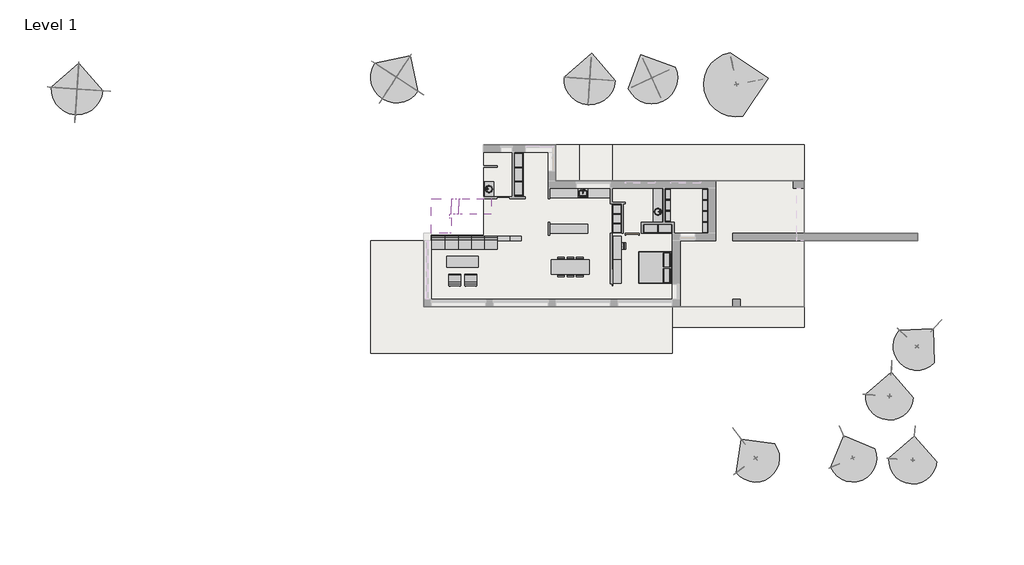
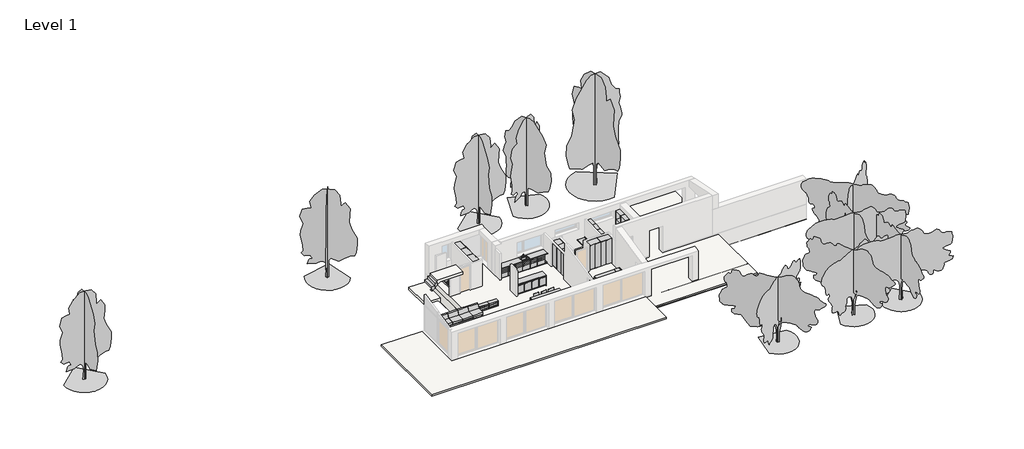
# One storey, part 2 of 2: 52 furniture elements, 10 geographic elements, 6 slabs, 3 flow terminals, 1 proxy, 1 stair flight.
"""IFC4 building model written with IfcOpenShell, lengths in millimetres."""

from ifc_helpers import new_model, si_unit, frame, origin, place, context, project, spatial, polyline, outline, extrude, faceted_brep, triangles, transform, mapped, element, save
from components import sink_kitchen_single_600_x_535mm_f0c6929d, sink_vanity_round_482_x_482mm_621b7b9b, sink_vanity_round_482_x_482mm_d6680c68, furniture_56f83323, furniture_c7f23c1d, furniture_641ccf10, furniture_1500_x_500mm_231fc5f9, furniture_2000_x_700mm_sofa_1e09125b, furniture_2400_x_900mm_03e2ad21, furniture_700_x_300_x_2200mm_207dd1db, furniture_700_x_300_x_2200mm_c5de9306, furniture_750_x_300_x_450mm_957a72fb, base_cabinet_4_drawers_600mm_0668e636, base_cabinet_4_drawers_600mm_bfcd0b6d, bed_box_2000_x_2100mm_5f007bae, couch_straight_module_couch_straight_module_fcc397ea, counter_top_counter_top_cbd42a63, counter_top_w_sink_counter_top_w_sink_5c8073ae, plinth_164mm_2a3f33c6, plinth_164mm_81055ff0, tall_cabinet_double_door_900mm_d8c8d432, tall_cabinet_single_door_600mm_1bc0e967, tall_cabinet_single_door_600mm_d6f7602f, vanity_counter_top_w_round_sink_hole_600mm_depth_e5f633f1, vanity_counter_top_w_round_sink_hole_600mm_depth_4de5aa83, rpc_tree_deciduous_comman_apple_6_0_meters_a7a636f8, rpc_tree_deciduous_red_ash_7_6_meters_16c8020d, rpc_tree_deciduous_red_ash_9_6_meters_2_bacbc33b

model = new_model("IFC4")

# Units and contexts
model_context = context("Model", 3, world=origin())
ifc_project = project(units=[si_unit("LENGTHUNIT", "METRE", prefix="MILLI")], contexts=[model_context])

# Site, building, storey
site = spatial("IfcSite", under=ifc_project)
building = spatial("IfcBuilding", under=site)
storey = spatial("IfcBuildingStorey", under=building, Name="Level 1", Elevation=0.0)

# Proxy
placement = place(None, origin())
element("IfcBuildingElementProxy", 1, Name="Building Element Proxy", at=placement, inside=storey, context=model_context, shape_type="Tessellation", body=[
    triangles([(7800.0000595, 9960.0001923, -1300.1595932), (7800.0000595, 9960.0001923, -581.8375231), (8428.9581802, 9960.0001923, -1300.1595932), (8428.9581802, 9960.0001923, -500.0000038), (12360.0002106, 9960.0001923, -1300.1595932), (12360.0002106, 9960.0001923, -210.0000089), (12360.0002106, 7679.999826, -1300.1595932), (12360.0002106, 7679.999826, -229.7587047), (12986.7293976, 7679.999826, -1300.1595932), (12986.7293976, 7679.999826, -199.1943094), (15938.3887665, 7679.999826, -1300.1595932), (15938.3887665, 7679.999826, -109.0047382), (18788.9891876, 7679.999826, -1300.1595932), (18788.9891876, 7679.999826, -110.9825699), (20187.7979919, 7679.999826, -1300.1595932), (20187.7979919, 7679.999826, -100.0000008), (22628.3373962, 7679.999826, -1300.1595932), (22628.3373962, 7679.999826, -100.0000008), (22988.0666016, 7679.999826, -1300.1595932), (22988.0666016, 7679.999826, -100.0000008), (24740.727063, 7679.999826, -1300.1595932), (24740.727063, 7679.999826, -100.0000008), (28197.1858521, 7679.999826, -1300.1595932), (28197.1858521, 7679.999826, -100.0000008), (28199.9996338, 7679.999826, -1300.1595932), (28199.9996338, 7679.999826, -100.0000008), (28199.9996338, 7678.500499, -1300.1595932), (28199.9996338, 7678.500499, -100.0000008), (28199.9996338, 4319.9999748, -1300.1595932), (28199.9996338, 4319.9999748, -100.0000008), (29690.7714294, 4319.9999748, -1300.1595932), (29690.7714294, 4319.9999748, -100.0000008), (30279.9424438, 4319.9999748, -1300.1595932), (30279.9424438, 4319.9999748, -100.0000008), (30908.9993958, 4319.9999748, -1300.1595932), (30908.9993958, 4319.9999748, -31.0460633), (31416.6009705, 4319.9999748, -1300.1595932), (31416.6009705, 4319.9999748, 0.0), (35399.9996887, 4319.9999748, -1300.1595932), (35399.9996887, 4319.9999748, 122.2298394), (35399.9996887, 3839.999913, -1300.1595932), (35399.9996887, 3839.999913, 121.0508688), (31455.0242065, 3839.999913, -1300.1595932), (31455.0242065, 3839.999913, 0.0), (31153.3635498, 3839.999913, -1300.1595932), (31153.3635498, 3839.999913, -18.4501842), (30409.3973328, 3839.999913, -1300.1595932), (30409.3973328, 3839.999913, -100.0000008), (29712.602655, 3839.999913, -1300.1595932), (29712.602655, 3839.999913, -100.0000008), (28199.9996338, 3839.999913, -1300.1595932), (28199.9996338, 3839.999913, -100.0000008), (28199.9996338, 2757.5497055, -1300.1595932), (28199.9996338, 2757.5497055, -100.0000008), (28199.9996338, -360.00001, -1300.1595932), (28199.9996338, -360.00001, -100.0000008), (23853.7207397, -360.00001, -1300.1595932), (23853.7207397, -360.00001, -100.0000008), (22511.993335, -360.00001, -1300.1595932), (22511.993335, -360.00001, -100.0000008), (21752.8164185, -360.00001, -1300.1595932), (21752.8164185, -360.00001, -100.0000008), (16504.800705, -360.00001, -1300.1595932), (16504.800705, -360.00001, -141.2041627), (15862.1806274, -360.00001, -1300.1595932), (15862.1806274, -360.00001, -140.758296), (15196.7770569, -360.00001, -1300.1595932), (15196.7770569, -360.00001, -161.0900401), (13880.4667053, -360.00001, -1300.1595932), (13880.4667053, -360.00001, -225.2839233), (13373.8755341, -360.00001, -1300.1595932), (13373.8755341, -360.00001, -233.3955103), (12470.4004486, -360.00001, -1300.1595932), (12470.4004486, -360.00001, -249.2727207), (11393.3638641, -360.00001, -1300.1595932), (11393.3638641, -360.00001, -270.7964614), (9179.1106476, -360.00001, -1300.1595932), (9179.1106476, -360.00001, -319.6154838), (3959.9998558, -360.00001, -1300.1595932), (3959.9998558, -360.00001, -445.0650939), (3959.9998558, 1473.4966873, -1300.1595932), (3959.9998558, 1473.4966873, -452.5169646), (3959.9998558, 3551.736985, -1300.1595932), (3959.9998558, 3551.736985, -472.7297934), (3959.9998558, 3839.999913, -1300.1595932), (3959.9998558, 3839.999913, -476.6637102)], [[1, 4, 2], [1, 3, 4], [3, 6, 4], [3, 5, 6], [5, 8, 6], [5, 7, 8], [7, 10, 8], [7, 9, 10], [9, 12, 10], [9, 11, 12], [11, 14, 12], [11, 13, 14], [13, 16, 14], [13, 15, 16], [15, 18, 16], [15, 17, 18], [17, 20, 18], [17, 19, 20], [19, 22, 20], [19, 21, 22], [21, 24, 22], [21, 23, 24], [23, 26, 24], [23, 25, 26], [25, 28, 26], [25, 27, 28], [27, 30, 28], [27, 29, 30], [29, 32, 30], [29, 31, 32], [31, 34, 32], [31, 33, 34], [33, 36, 34], [33, 35, 36], [35, 38, 36], [35, 37, 38], [37, 40, 38], [37, 39, 40], [39, 42, 40], [39, 41, 42], [41, 44, 42], [41, 43, 44], [43, 46, 44], [43, 45, 46], [45, 48, 46], [45, 47, 48], [47, 50, 48], [47, 49, 50], [49, 52, 50], [49, 51, 52], [51, 54, 52], [51, 53, 54], [53, 56, 54], [53, 55, 56], [55, 58, 56], [55, 57, 58], [57, 60, 58], [57, 59, 60], [59, 62, 60], [59, 61, 62], [61, 64, 62], [61, 63, 64], [63, 66, 64], [63, 65, 66], [65, 68, 66], [65, 67, 68], [67, 70, 68], [67, 69, 70], [69, 72, 70], [69, 71, 72], [71, 74, 72], [71, 73, 74], [73, 76, 74], [73, 75, 76], [75, 78, 76], [75, 77, 78], [77, 80, 78], [77, 79, 80], [79, 82, 80], [79, 81, 82], [81, 84, 82], [81, 83, 84], [83, 86, 84], [83, 85, 86]], closed=False),
    triangles([(3959.9998558, 3839.999913, -1300.1595932), (3959.9998558, 3839.999913, -476.6637102), (3959.9998558, 3551.736985, -1300.1595932), (3959.9998558, 3551.736985, -472.7297934), (3959.9998558, 1473.4966873, -1300.1595932), (3959.9998558, 1473.4966873, -452.5169646), (3959.9998558, -360.00001, -1300.1595932), (3959.9998558, -360.00001, -445.0650939), (9179.1106476, -360.00001, -1300.1595932), (9179.1106476, -360.00001, -319.6154838), (11393.3638641, -360.00001, -1300.1595932), (11393.3638641, -360.00001, -270.7964614), (12470.4004486, -360.00001, -1300.1595932), (12470.4004486, -360.00001, -249.2727207), (13373.8755341, -360.00001, -1300.1595932), (13373.8755341, -360.00001, -233.3955103), (13880.4667053, -360.00001, -1300.1595932), (13880.4667053, -360.00001, -225.2839233), (15196.7770569, -360.00001, -1300.1595932), (15196.7770569, -360.00001, -161.0900401), (15862.1806274, -360.00001, -1300.1595932), (15862.1806274, -360.00001, -140.758296), (16504.800705, -360.00001, -1300.1595932), (16504.800705, -360.00001, -141.2041627), (21752.8164185, -360.00001, -1300.1595932), (21752.8164185, -360.00001, -100.0000008), (22511.993335, -360.00001, -1300.1595932), (22511.993335, -360.00001, -100.0000008), (23853.7207397, -360.00001, -1300.1595932), (23853.7207397, -360.00001, -100.0000008), (28199.9996338, -360.00001, -1300.1595932), (28199.9996338, -360.00001, -100.0000008), (28199.9996338, 2757.5497055, -1300.1595932), (28199.9996338, 2757.5497055, -100.0000008), (28199.9996338, 3839.999913, -1300.1595932), (28199.9996338, 3839.999913, -100.0000008), (29712.602655, 3839.999913, -1300.1595932), (29712.602655, 3839.999913, -100.0000008), (30409.3973328, 3839.999913, -1300.1595932), (30409.3973328, 3839.999913, -100.0000008), (31153.3635498, 3839.999913, -1300.1595932), (31153.3635498, 3839.999913, -18.4501842), (31455.0242065, 3839.999913, -1300.1595932), (31455.0242065, 3839.999913, 0.0), (35399.9996887, 3839.999913, -1300.1595932), (35399.9996887, 3839.999913, 121.0508688), (35399.9996887, 4319.9999748, -1300.1595932), (35399.9996887, 4319.9999748, 122.2298394), (31416.6009705, 4319.9999748, -1300.1595932), (31416.6009705, 4319.9999748, 0.0), (30908.9993958, 4319.9999748, -1300.1595932), (30908.9993958, 4319.9999748, -31.0460633), (30279.9424438, 4319.9999748, -1300.1595932), (30279.9424438, 4319.9999748, -100.0000008), (29690.7714294, 4319.9999748, -1300.1595932), (29690.7714294, 4319.9999748, -100.0000008), (28199.9996338, 4319.9999748, -1300.1595932), (28199.9996338, 4319.9999748, -100.0000008), (28199.9996338, 7678.500499, -1300.1595932), (28199.9996338, 7678.500499, -100.0000008), (28199.9996338, 7679.999826, -1300.1595932), (28199.9996338, 7679.999826, -100.0000008), (28197.1858521, 7679.999826, -1300.1595932), (28197.1858521, 7679.999826, -100.0000008), (24740.727063, 7679.999826, -1300.1595932), (24740.727063, 7679.999826, -100.0000008), (22988.0666016, 7679.999826, -1300.1595932), (22988.0666016, 7679.999826, -100.0000008), (22628.3373962, 7679.999826, -1300.1595932), (22628.3373962, 7679.999826, -100.0000008), (20187.7979919, 7679.999826, -1300.1595932), (20187.7979919, 7679.999826, -100.0000008), (18788.9891876, 7679.999826, -1300.1595932), (18788.9891876, 7679.999826, -110.9825699), (15938.3887665, 7679.999826, -1300.1595932), (15938.3887665, 7679.999826, -109.0047382), (12986.7293976, 7679.999826, -1300.1595932), (12986.7293976, 7679.999826, -199.1943094), (12360.0002106, 7679.999826, -1300.1595932), (12360.0002106, 7679.999826, -229.7587047), (12360.0002106, 9960.0001923, -1300.1595932), (12360.0002106, 9960.0001923, -210.0000089)], [[1, 4, 2], [1, 3, 4], [3, 6, 4], [3, 5, 6], [5, 8, 6], [5, 7, 8], [7, 10, 8], [7, 9, 10], [9, 12, 10], [9, 11, 12], [11, 14, 12], [11, 13, 14], [13, 16, 14], [13, 15, 16], [15, 18, 16], [15, 17, 18], [17, 20, 18], [17, 19, 20], [19, 22, 20], [19, 21, 22], [21, 24, 22], [21, 23, 24], [23, 26, 24], [23, 25, 26], [25, 28, 26], [25, 27, 28], [27, 30, 28], [27, 29, 30], [29, 32, 30], [29, 31, 32], [31, 34, 32], [31, 33, 34], [33, 36, 34], [33, 35, 36], [35, 38, 36], [35, 37, 38], [37, 40, 38], [37, 39, 40], [39, 42, 40], [39, 41, 42], [41, 44, 42], [41, 43, 44], [43, 46, 44], [43, 45, 46], [45, 48, 46], [45, 47, 48], [47, 50, 48], [47, 49, 50], [49, 52, 50], [49, 51, 52], [51, 54, 52], [51, 53, 54], [53, 56, 54], [53, 55, 56], [55, 58, 56], [55, 57, 58], [57, 60, 58], [57, 59, 60], [59, 62, 60], [59, 61, 62], [61, 64, 62], [61, 63, 64], [63, 66, 64], [63, 65, 66], [65, 68, 66], [65, 67, 68], [67, 70, 68], [67, 69, 70], [69, 72, 70], [69, 71, 72], [71, 74, 72], [71, 73, 74], [73, 76, 74], [73, 75, 76], [75, 78, 76], [75, 77, 78], [77, 80, 78], [77, 79, 80], [79, 82, 80], [79, 81, 82]], closed=False),
    triangles([(12360.0002106, 9960.0001923, -1300.1595932), (12360.0002106, 9960.0001923, -210.0000089), (8428.9581802, 9960.0001923, -1300.1595932), (8428.9581802, 9960.0001923, -500.0000038), (7800.0000595, 9960.0001923, -1300.1595932), (7800.0000595, 9960.0001923, -581.8375231)], [[1, 4, 2], [1, 3, 4], [3, 6, 4], [3, 5, 6]], closed=False),
    triangles([(12360.0002106, 9960.0001923, -1300.1595932), (7800.0000595, 9960.0001923, -1300.1595932), (7800.0000595, 4200.000032, -1300.1595932), (4439.9999176, 4200.000032, -1300.1595932), (4439.9999176, 3839.999913, -1300.1595932), (3959.9998558, 3839.999913, -1300.1595932), (3959.9998558, -360.00001, -1300.1595932), (28199.9996338, -360.00001, -1300.1595932), (28199.9996338, 3839.999913, -1300.1595932), (35399.9996887, 3839.999913, -1300.1595932), (35399.9996887, 4319.9999748, -1300.1595932), (28199.9996338, 4319.9999748, -1300.1595932), (28199.9996338, 7679.999826, -1300.1595932), (12360.0002106, 7679.999826, -1300.1595932)], [[7, 5, 6], [5, 7, 3], [2, 14, 1], [14, 2, 3], [4, 5, 3], [7, 8, 3], [8, 9, 14], [9, 10, 11], [14, 12, 13], [12, 14, 9], [12, 9, 11], [8, 14, 3]], closed=False),
])

# Flow terminals
sink_kitchen_single_600_x_535mm_shape = sink_kitchen_single_600_x_535mm_f0c6929d(model_context)
element("IfcFlowTerminal", 2, ObjectType="Sink Kitchen-Single : 600 x 535mm", at=placement, inside=storey, context=model_context, shape_type="MappedRepresentation", body=[
    mapped(sink_kitchen_single_600_x_535mm_shape, transform((14084.3107594, 6884.4545989, 0.0), x_axis=(1.0, 0.0, 0.0), y_axis=(0.0, 1.0, 0.0), z_axis=(0.0, 0.0, 1.0))),
])
sink_vanity_round_482_x_482mm_shape = sink_vanity_round_482_x_482mm_621b7b9b(model_context)
element("IfcFlowTerminal", 3, ObjectType="Sink Vanity - Round : 482 x 482mm", at=placement, inside=storey, context=model_context, shape_type="MappedRepresentation", body=[
    mapped(sink_vanity_round_482_x_482mm_shape, transform((8198.5909789, 7043.3482594, 0.0), x_axis=(0.0, 1.0, 0.0), y_axis=(-1.0, 0.0, 0.0), z_axis=(0.0, 0.0, 1.0))),
])
sink_vanity_round_482_x_482mm_2_shape = sink_vanity_round_482_x_482mm_d6680c68(model_context)
element("IfcFlowTerminal", 4, ObjectType="Sink Vanity - Round : 482 x 482mm", at=placement, inside=storey, context=model_context, shape_type="MappedRepresentation", body=[
    mapped(sink_vanity_round_482_x_482mm_2_shape, transform((18782.3590211, 5603.3482594, 0.0), x_axis=(0.0, 1.0, 0.0), y_axis=(-1.0, 0.0, 0.0), z_axis=(0.0, 0.0, 1.0))),
])

# Furniture
furniture_shape = furniture_56f83323(model_context)
element("IfcFurniture", 5, ObjectType="Chair - Allround : Dining Chair Trendy", at=placement, inside=storey, context=model_context, shape_type="MappedRepresentation", body=[
    mapped(furniture_shape, transform((13300.0, 2500.0, 0.0), x_axis=(1.0, 0.0, 0.0), y_axis=(0.0, 1.0, 0.0), z_axis=(0.0, 0.0, 1.0))),
])
element("IfcFurniture", 6, ObjectType="Chair - Allround : Dining Chair Trendy", at=placement, inside=storey, context=model_context, shape_type="MappedRepresentation", body=[
    mapped(furniture_shape, transform((12700.0, 2500.0, 0.0), x_axis=(1.0, 0.0, 0.0), y_axis=(0.0, 1.0, 0.0), z_axis=(0.0, 0.0, 1.0))),
])
element("IfcFurniture", 7, ObjectType="Chair - Allround : Dining Chair Trendy", at=placement, inside=storey, context=model_context, shape_type="MappedRepresentation", body=[
    mapped(furniture_shape, transform((13900.0, 1860.0, 0.0), x_axis=(-1.0, 0.0, 0.0), y_axis=(0.0, -1.0, 0.0), z_axis=(0.0, 0.0, 1.0))),
])
element("IfcFurniture", 8, ObjectType="Chair - Allround : Dining Chair Trendy", at=placement, inside=storey, context=model_context, shape_type="MappedRepresentation", body=[
    mapped(furniture_shape, transform((16520.0, 3510.0, 0.0), x_axis=(0.0, -1.0, 0.0), y_axis=(1.0, 0.0, 0.0), z_axis=(0.0, 0.0, 1.0))),
])
furniture_2_shape = furniture_c7f23c1d(model_context)
element("IfcFurniture", 9, ObjectType="Armchair - Barcelona : Armchair Barcelona", at=placement, inside=storey, context=model_context, shape_type="MappedRepresentation", body=[
    mapped(furniture_2_shape, transform((6959.0, 930.0, 0.0), x_axis=(-1.0000000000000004, 0.0, 0.0), y_axis=(0.0, -1.0000000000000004, 0.0), z_axis=(0.0, 0.0, 1.0))),
])
element("IfcFurniture", 10, ObjectType="Armchair - Barcelona : Armchair Barcelona", at=placement, inside=storey, context=model_context, shape_type="MappedRepresentation", body=[
    mapped(furniture_2_shape, transform((5947.0, 930.0, 0.0), x_axis=(-1.0, 0.0, 0.0), y_axis=(0.0, -1.0, 0.0), z_axis=(0.0, 0.0, 1.0))),
])
furniture_3_shape = furniture_641ccf10(model_context)
element("IfcFurniture", 11, ObjectType="Chair - Allround : Dining Chair Trendy", at=placement, inside=storey, context=model_context, shape_type="MappedRepresentation", body=[
    mapped(furniture_3_shape, transform((13900.0, 2500.0, 0.0), x_axis=(-1.0, 0.0, 0.0), y_axis=(0.0, -1.0, 0.0), z_axis=(0.0, 0.0, 1.0))),
])
element("IfcFurniture", 12, ObjectType="Chair - Allround : Dining Chair Trendy", at=placement, inside=storey, context=model_context, shape_type="MappedRepresentation", body=[
    mapped(furniture_3_shape, transform((13300.0, 1860.0, 0.0), x_axis=(1.0, 0.0, 0.0), y_axis=(0.0, 1.0, 0.0), z_axis=(0.0, 0.0, 1.0))),
])
element("IfcFurniture", 13, ObjectType="Chair - Allround : Dining Chair Trendy", at=placement, inside=storey, context=model_context, shape_type="MappedRepresentation", body=[
    mapped(furniture_3_shape, transform((12700.0, 1860.0, 0.0), x_axis=(1.0, 0.0, 0.0), y_axis=(0.0, 1.0, 0.0), z_axis=(0.0, 0.0, 1.0))),
])
furniture_1500_x_500mm_shape = furniture_1500_x_500mm_231fc5f9(model_context)
element("IfcFurniture", 14, ObjectType="Table - Allround : 1500 x 500mm", at=placement, inside=storey, context=model_context, shape_type="MappedRepresentation", body=[
    mapped(furniture_1500_x_500mm_shape, transform((16275.0, 3400.0, 0.0), x_axis=(0.0, 1.0, 0.0), y_axis=(-1.0, 0.0, 0.0), z_axis=(0.0, 0.0, 1.0))),
])
element("IfcFurniture", 15, ObjectType="Table - Allround : 1500 x 500mm", at=placement, inside=storey, context=model_context, shape_type="MappedRepresentation", body=[
    mapped(furniture_1500_x_500mm_shape, transform((16275.0, 1900.0, 0.0), x_axis=(0.0, 1.0, 0.0), y_axis=(-1.0, 0.0, 0.0), z_axis=(0.0, 0.0, 1.0))),
])
furniture_2000_x_700mm_sofa_shape = furniture_2000_x_700mm_sofa_1e09125b(model_context)
element("IfcFurniture", 16, ObjectType="Table - Allround : 2000 x 700mm Sofa", at=placement, inside=storey, context=model_context, shape_type="MappedRepresentation", body=[
    mapped(furniture_2000_x_700mm_sofa_shape, transform((6440.0, 2520.0, 0.0), x_axis=(1.0, 0.0, 0.0), y_axis=(0.0, 1.0, 0.0), z_axis=(0.0, 0.0, 1.0))),
])
furniture_2400_x_900mm_shape = furniture_2400_x_900mm_03e2ad21(model_context)
element("IfcFurniture", 17, ObjectType="Table - Allround : 2400 x 900mm", at=placement, inside=storey, context=model_context, shape_type="MappedRepresentation", body=[
    mapped(furniture_2400_x_900mm_shape, transform((13300.0, 2180.0, 0.0), x_axis=(1.0, 0.0, 0.0), y_axis=(0.0, 1.0, 0.0), z_axis=(0.0, 0.0, 1.0))),
])
furniture_700_x_300_x_2200mm_shape = furniture_700_x_300_x_2200mm_207dd1db(model_context)
element("IfcFurniture", 18, ObjectType="Shelving (Floor) - Allround : 700 x 300 x 2200mm", at=placement, inside=storey, context=model_context, shape_type="MappedRepresentation", body=[
    mapped(furniture_700_x_300_x_2200mm_shape, transform((19824.8, 5420.0, 0.0), x_axis=(0.0, -1.0000000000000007, 0.0), y_axis=(1.0000000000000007, 0.0, 0.0), z_axis=(0.0, 0.0, 1.0))),
])
element("IfcFurniture", 19, ObjectType="Shelving (Floor) - Allround : 700 x 300 x 2200mm", at=placement, inside=storey, context=model_context, shape_type="MappedRepresentation", body=[
    mapped(furniture_700_x_300_x_2200mm_shape, transform((19824.8, 6120.0, 0.0), x_axis=(0.0, -1.0000000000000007, 0.0), y_axis=(1.0000000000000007, 0.0, 0.0), z_axis=(0.0, 0.0, 1.0))),
])
element("IfcFurniture", 20, ObjectType="Shelving (Floor) - Allround : 700 x 300 x 2200mm", at=placement, inside=storey, context=model_context, shape_type="MappedRepresentation", body=[
    mapped(furniture_700_x_300_x_2200mm_shape, transform((19824.8, 6820.0, 0.0), x_axis=(0.0, -1.0000000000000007, 0.0), y_axis=(1.0000000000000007, 0.0, 0.0), z_axis=(0.0, 0.0, 1.0))),
])
furniture_700_x_300_x_2200mm_2_shape = furniture_700_x_300_x_2200mm_c5de9306(model_context)
element("IfcFurniture", 21, ObjectType="Shelving (Floor) - Allround : 700 x 300 x 2200mm", at=placement, inside=storey, context=model_context, shape_type="MappedRepresentation", body=[
    mapped(furniture_700_x_300_x_2200mm_2_shape, transform((21575.2, 5400.0, 0.0), x_axis=(0.0, -1.0000000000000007, 0.0), y_axis=(1.0000000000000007, 0.0, 0.0), z_axis=(0.0, 0.0, 1.0))),
])
element("IfcFurniture", 22, ObjectType="Shelving (Floor) - Allround : 700 x 300 x 2200mm", at=placement, inside=storey, context=model_context, shape_type="MappedRepresentation", body=[
    mapped(furniture_700_x_300_x_2200mm_2_shape, transform((21575.2, 6100.0, 0.0), x_axis=(0.0, -1.0000000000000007, 0.0), y_axis=(1.0000000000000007, 0.0, 0.0), z_axis=(0.0, 0.0, 1.0))),
])
element("IfcFurniture", 23, ObjectType="Shelving (Floor) - Allround : 700 x 300 x 2200mm", at=placement, inside=storey, context=model_context, shape_type="MappedRepresentation", body=[
    mapped(furniture_700_x_300_x_2200mm_2_shape, transform((21575.2, 6800.0, 0.0), x_axis=(0.0, -1.0000000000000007, 0.0), y_axis=(1.0000000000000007, 0.0, 0.0), z_axis=(0.0, 0.0, 1.0))),
])
element("IfcFurniture", 24, ObjectType="Shelving (Floor) - Allround : 700 x 300 x 2200mm", at=placement, inside=storey, context=model_context, shape_type="MappedRepresentation", body=[
    mapped(furniture_700_x_300_x_2200mm_2_shape, transform((21575.2, 4700.0, 0.0), x_axis=(0.0, -1.0000000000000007, 0.0), y_axis=(1.0000000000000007, 0.0, 0.0), z_axis=(0.0, 0.0, 1.0))),
])
furniture_750_x_300_x_450mm_shape = furniture_750_x_300_x_450mm_957a72fb(model_context)
element("IfcFurniture", 25, ObjectType="Shelving (Floor) - Allround : 750 x 300 x 450mm", at=placement, inside=storey, context=model_context, shape_type="MappedRepresentation", body=[
    mapped(furniture_750_x_300_x_450mm_shape, transform((9065.0, 4304.8, 0.0), x_axis=(1.0000000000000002, 0.0, 0.0), y_axis=(0.0, 1.0000000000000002, 0.0), z_axis=(0.0, 0.0, 1.0))),
])
element("IfcFurniture", 26, ObjectType="Shelving (Floor) - Allround : 750 x 300 x 450mm", at=placement, inside=storey, context=model_context, shape_type="MappedRepresentation", body=[
    mapped(furniture_750_x_300_x_450mm_shape, transform((9815.0, 4304.8, 0.0), x_axis=(1.0000000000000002, 0.0, 0.0), y_axis=(0.0, 1.0000000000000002, 0.0), z_axis=(0.0, 0.0, 1.0))),
])
base_cabinet_4_drawers_600mm_shape = base_cabinet_4_drawers_600mm_0668e636(model_context)
element("IfcFurniture", 27, ObjectType="Base Cabinet - 4 Drawers : 600mm", at=placement, inside=storey, context=model_context, shape_type="MappedRepresentation", body=[
    mapped(base_cabinet_4_drawers_600mm_shape, transform((13455.2996736, 7200.9817781, 0.0), x_axis=(1.0, 0.0, 0.0), y_axis=(0.0, 1.0, 0.0), z_axis=(0.0, 0.0, 1.0))),
])
element("IfcFurniture", 28, ObjectType="Base Cabinet - 4 Drawers : 600mm", at=placement, inside=storey, context=model_context, shape_type="MappedRepresentation", body=[
    mapped(base_cabinet_4_drawers_600mm_shape, transform((14655.2996736, 7200.0, 0.0), x_axis=(1.0, 0.0, 0.0), y_axis=(0.0, 1.0, 0.0), z_axis=(0.0, 0.0, 1.0))),
])
element("IfcFurniture", 29, ObjectType="Base Cabinet - 4 Drawers : 600mm", at=placement, inside=storey, context=model_context, shape_type="MappedRepresentation", body=[
    mapped(base_cabinet_4_drawers_600mm_shape, transform((15255.2996736, 7200.0, 0.0), x_axis=(1.0, 0.0, 0.0), y_axis=(0.0, 1.0, 0.0), z_axis=(0.0, 0.0, 1.0))),
])
element("IfcFurniture", 30, ObjectType="Base Cabinet - 4 Drawers : 600mm", at=placement, inside=storey, context=model_context, shape_type="MappedRepresentation", body=[
    mapped(base_cabinet_4_drawers_600mm_shape, transform((12344.7003264, 4320.0, 0.0), x_axis=(-1.0000000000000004, 0.0, 0.0), y_axis=(0.0, -1.0000000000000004, 0.0), z_axis=(0.0, 0.0, 1.0))),
])
element("IfcFurniture", 31, ObjectType="Base Cabinet - 4 Drawers : 600mm", at=placement, inside=storey, context=model_context, shape_type="MappedRepresentation", body=[
    mapped(base_cabinet_4_drawers_600mm_shape, transform((12944.7003264, 4320.0, 0.0), x_axis=(-1.0, 0.0, 0.0), y_axis=(0.0, -1.0, 0.0), z_axis=(0.0, 0.0, 1.0))),
])
element("IfcFurniture", 32, ObjectType="Base Cabinet - 4 Drawers : 600mm", at=placement, inside=storey, context=model_context, shape_type="MappedRepresentation", body=[
    mapped(base_cabinet_4_drawers_600mm_shape, transform((13544.7003264, 4320.0, 0.0), x_axis=(-1.0, 0.0, 0.0), y_axis=(0.0, -1.0, 0.0), z_axis=(0.0, 0.0, 1.0))),
])
element("IfcFurniture", 33, ObjectType="Base Cabinet - 4 Drawers : 600mm", at=placement, inside=storey, context=model_context, shape_type="MappedRepresentation", body=[
    mapped(base_cabinet_4_drawers_600mm_shape, transform((14144.7003264, 4320.0, 0.0), x_axis=(-1.0, 0.0, 0.0), y_axis=(0.0, -1.0, 0.0), z_axis=(0.0, 0.0, 1.0))),
])
element("IfcFurniture", 34, ObjectType="Base Cabinet - 4 Drawers : 600mm", at=placement, inside=storey, context=model_context, shape_type="MappedRepresentation", body=[
    mapped(base_cabinet_4_drawers_600mm_shape, transform((12855.2996736, 7200.9817781, 0.0), x_axis=(1.0, 0.0, 0.0), y_axis=(0.0, 1.0, 0.0), z_axis=(0.0, 0.0, 1.0))),
])
element("IfcFurniture", 35, ObjectType="Base Cabinet - 4 Drawers : 600mm", at=placement, inside=storey, context=model_context, shape_type="MappedRepresentation", body=[
    mapped(base_cabinet_4_drawers_600mm_shape, transform((12255.2996736, 7200.9817781, 0.0), x_axis=(1.0, 0.0, 0.0), y_axis=(0.0, 1.0, 0.0), z_axis=(0.0, 0.0, 1.0))),
])
base_cabinet_4_drawers_600mm_2_shape = base_cabinet_4_drawers_600mm_bfcd0b6d(model_context)
element("IfcFurniture", 36, ObjectType="Base Cabinet - 4 Drawers : 600mm", at=placement, inside=storey, context=model_context, shape_type="MappedRepresentation", body=[
    mapped(base_cabinet_4_drawers_600mm_2_shape, transform((14055.2996736, 7200.0, 0.0), x_axis=(1.0, 0.0, 0.0), y_axis=(0.0, 1.0, 0.0), z_axis=(0.0, 0.0, 1.0))),
])
bed_box_2000_x_2100mm_shape = bed_box_2000_x_2100mm_5f007bae(model_context)
element("IfcFurniture", 37, ObjectType="Bed - Box : 2000 x 2100mm", at=placement, inside=storey, context=model_context, shape_type="MappedRepresentation", body=[
    mapped(bed_box_2000_x_2100mm_shape, transform((18934.4295082, 2489.152459, 0.0), x_axis=(0.0, -1.0000000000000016, 0.0), y_axis=(1.0000000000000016, 0.0, 0.0), z_axis=(0.0, 0.0, 1.0))),
])
couch_straight_module_couch_straight_module_shape = couch_straight_module_couch_straight_module_fcc397ea(model_context)
element("IfcFurniture", 38, ObjectType="Couch - Straight Module : Couch straight module", at=placement, inside=storey, context=model_context, shape_type="MappedRepresentation", body=[
    mapped(couch_straight_module_couch_straight_module_shape, transform((4490.0, 3320.0, 0.0), x_axis=(1.0, 0.0, 0.0), y_axis=(0.0, 1.0, 0.0), z_axis=(0.0, 0.0, 1.0))),
])
element("IfcFurniture", 39, ObjectType="Couch - Straight Module : Couch straight module", at=placement, inside=storey, context=model_context, shape_type="MappedRepresentation", body=[
    mapped(couch_straight_module_couch_straight_module_shape, transform((5320.0, 3320.0, 0.0), x_axis=(1.0, 0.0, 0.0), y_axis=(0.0, 1.0, 0.0), z_axis=(0.0, 0.0, 1.0))),
])
element("IfcFurniture", 40, ObjectType="Couch - Straight Module : Couch straight module", at=placement, inside=storey, context=model_context, shape_type="MappedRepresentation", body=[
    mapped(couch_straight_module_couch_straight_module_shape, transform((6150.0, 3320.0, 0.0), x_axis=(1.0, 0.0, 0.0), y_axis=(0.0, 1.0, 0.0), z_axis=(0.0, 0.0, 1.0))),
])
element("IfcFurniture", 41, ObjectType="Couch - Straight Module : Couch straight module", at=placement, inside=storey, context=model_context, shape_type="MappedRepresentation", body=[
    mapped(couch_straight_module_couch_straight_module_shape, transform((6980.0, 3320.0, 0.0), x_axis=(1.0, 0.0, 0.0), y_axis=(0.0, 1.0, 0.0), z_axis=(0.0, 0.0, 1.0))),
])
element("IfcFurniture", 42, ObjectType="Couch - Straight Module : Couch straight module", at=placement, inside=storey, context=model_context, shape_type="MappedRepresentation", body=[
    mapped(couch_straight_module_couch_straight_module_shape, transform((7810.0, 3320.0, 0.0), x_axis=(1.0, 0.0, 0.0), y_axis=(0.0, 1.0, 0.0), z_axis=(0.0, 0.0, 1.0))),
])
counter_top_counter_top_shape = counter_top_counter_top_cbd42a63(model_context)
element("IfcFurniture", 43, ObjectType="Counter Top : Counter Top", at=placement, inside=storey, context=model_context, shape_type="MappedRepresentation", body=[
    mapped(counter_top_counter_top_shape, transform((13844.7003264, 4320.0, 0.0), x_axis=(-1.0000000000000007, 0.0, 0.0), y_axis=(0.0, -1.0000000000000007, 0.0), z_axis=(0.0, 0.0, 1.0))),
])
counter_top_w_sink_counter_top_w_sink_shape = counter_top_w_sink_counter_top_w_sink_5c8073ae(model_context)
element("IfcFurniture", 44, ObjectType="Counter Top w Sink : Counter Top w Sink", at=placement, inside=storey, context=model_context, shape_type="MappedRepresentation", body=[
    mapped(counter_top_w_sink_counter_top_w_sink_shape, transform((12555.2996736, 7200.0, 0.0), x_axis=(1.0, 0.0, 0.0), y_axis=(0.0, 1.0, 0.0), z_axis=(0.0, 0.0, 1.0))),
])
plinth_164mm_shape = plinth_164mm_2a3f33c6(model_context)
element("IfcFurniture", 45, ObjectType="Plinth : 164mm", at=placement, inside=storey, context=model_context, shape_type="MappedRepresentation", body=[
    mapped(plinth_164mm_shape, transform((13214.7003264, 4320.0, 0.0), x_axis=(-1.0, 0.0, 0.0), y_axis=(0.0, -1.0, 0.0), z_axis=(0.0, 0.0, 1.0))),
])
plinth_164mm_2_shape = plinth_164mm_81055ff0(model_context)
element("IfcFurniture", 46, ObjectType="Plinth : 164mm", at=placement, inside=storey, context=model_context, shape_type="MappedRepresentation", body=[
    mapped(plinth_164mm_2_shape, transform((13845.2996736, 7200.0, 0.0), x_axis=(1.0, 0.0, 0.0), y_axis=(0.0, 1.0, 0.0), z_axis=(0.0, 0.0, 1.0))),
])
tall_cabinet_double_door_900mm_shape = tall_cabinet_double_door_900mm_d8c8d432(model_context)
element("IfcFurniture", 47, ObjectType="Tall Cabinet - Double door : 900mm", at=placement, inside=storey, context=model_context, shape_type="MappedRepresentation", body=[
    mapped(tall_cabinet_double_door_900mm_shape, transform((9720.0, 7130.2996736, 0.0), x_axis=(0.0, 1.0000000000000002, 0.0), y_axis=(-1.0000000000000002, 0.0, 0.0), z_axis=(0.0, 0.0, 1.0))),
])
element("IfcFurniture", 48, ObjectType="Tall Cabinet - Double door : 900mm", at=placement, inside=storey, context=model_context, shape_type="MappedRepresentation", body=[
    mapped(tall_cabinet_double_door_900mm_shape, transform((9720.0, 8930.2996736, 0.0), x_axis=(0.0, 1.0000000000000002, 0.0), y_axis=(-1.0000000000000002, 0.0, 0.0), z_axis=(0.0, 0.0, 1.0))),
])
element("IfcFurniture", 49, ObjectType="Tall Cabinet - Double door : 900mm", at=placement, inside=storey, context=model_context, shape_type="MappedRepresentation", body=[
    mapped(tall_cabinet_double_door_900mm_shape, transform((19275.2996736, 4920.0, 0.0), x_axis=(1.0000000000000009, 0.0, 0.0), y_axis=(0.0, 1.0000000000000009, 0.0), z_axis=(0.0, 0.0, 1.0))),
])
element("IfcFurniture", 50, ObjectType="Tall Cabinet - Double door : 900mm", at=placement, inside=storey, context=model_context, shape_type="MappedRepresentation", body=[
    mapped(tall_cabinet_double_door_900mm_shape, transform((9720.0, 8030.2996736, 0.0), x_axis=(0.0, 1.0, 0.0), y_axis=(-1.0, 0.0, 0.0), z_axis=(0.0, 0.0, 1.0))),
])
element("IfcFurniture", 51, ObjectType="Tall Cabinet - Double door : 900mm", at=placement, inside=storey, context=model_context, shape_type="MappedRepresentation", body=[
    mapped(tall_cabinet_double_door_900mm_shape, transform((18375.2996736, 4920.0, 0.0), x_axis=(1.0000000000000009, 0.0, 0.0), y_axis=(0.0, 1.0000000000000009, 0.0), z_axis=(0.0, 0.0, 1.0))),
])
tall_cabinet_single_door_600mm_shape = tall_cabinet_single_door_600mm_1bc0e967(model_context)
element("IfcFurniture", 52, ObjectType="Tall Cabinet - Single door : 600mm", at=placement, inside=storey, context=model_context, shape_type="MappedRepresentation", body=[
    mapped(tall_cabinet_single_door_600mm_shape, transform((16560.0, 5904.7003264, 0.0), x_axis=(0.0, -1.0, 0.0), y_axis=(1.0, 0.0, 0.0), z_axis=(0.0, 0.0, 1.0))),
])
tall_cabinet_single_door_600mm_2_shape = tall_cabinet_single_door_600mm_d6f7602f(model_context)
element("IfcFurniture", 53, ObjectType="Tall Cabinet - Single door : 600mm", at=placement, inside=storey, context=model_context, shape_type="MappedRepresentation", body=[
    mapped(tall_cabinet_single_door_600mm_2_shape, transform((16560.0, 5215.2996736, 0.0), x_axis=(0.0, 1.0, 0.0), y_axis=(-1.0, 0.0, 0.0), z_axis=(0.0, 0.0, 1.0))),
])
element("IfcFurniture", 54, ObjectType="Tall Cabinet - Single door : 600mm", at=placement, inside=storey, context=model_context, shape_type="MappedRepresentation", body=[
    mapped(tall_cabinet_single_door_600mm_2_shape, transform((16560.0, 4615.2996736, 0.0), x_axis=(0.0, 1.0, 0.0), y_axis=(-1.0, 0.0, 0.0), z_axis=(0.0, 0.0, 1.0))),
])
vanity_counter_top_w_round_sink_hole_600mm_depth_shape = vanity_counter_top_w_round_sink_hole_600mm_depth_e5f633f1(model_context)
element("IfcFurniture", 55, ObjectType="Vanity Counter Top w Round Sink Hole : 600mm Depth", at=placement, inside=storey, context=model_context, shape_type="MappedRepresentation", body=[
    mapped(vanity_counter_top_w_round_sink_hole_600mm_depth_shape, transform((19200.0, 6367.4622951, 0.0), x_axis=(0.0, 1.0, 0.0), y_axis=(-1.0, 0.0, 0.0), z_axis=(0.0, 0.0, 1.0))),
])
vanity_counter_top_w_round_sink_hole_600mm_depth_2_shape = vanity_counter_top_w_round_sink_hole_600mm_depth_4de5aa83(model_context)
element("IfcFurniture", 56, ObjectType="Vanity Counter Top w Round Sink Hole : 600mm Depth", at=placement, inside=storey, context=model_context, shape_type="MappedRepresentation", body=[
    mapped(vanity_counter_top_w_round_sink_hole_600mm_depth_2_shape, transform((7800.0, 7987.4622951, 0.0), x_axis=(0.0, 1.0, 0.0), y_axis=(-1.0, 0.0, 0.0), z_axis=(0.0, 0.0, 1.0))),
])

# Geographic elements
rpc_tree_deciduous_comman_apple_6_0_meters_shape = rpc_tree_deciduous_comman_apple_6_0_meters_a7a636f8(model_context)
element("IfcGeographicElement", 57, ObjectType="RPC Tree - Deciduous : Comman Apple - 6.0 Meters", at=placement, inside=storey, context=model_context, shape_type="MappedRepresentation", body=[
    mapped(rpc_tree_deciduous_comman_apple_6_0_meters_shape, transform((35361.5764965, -2873.1431422, 199.8486254), x_axis=(0.7313537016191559, -0.6819983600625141, 0.0), y_axis=(0.6819983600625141, 0.7313537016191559, 0.0), z_axis=(0.0, 0.0, 1.0))),
])
element("IfcGeographicElement", 58, ObjectType="RPC Tree - Deciduous : Comman Apple - 6.0 Meters", at=placement, inside=storey, context=model_context, shape_type="MappedRepresentation", body=[
    mapped(rpc_tree_deciduous_comman_apple_6_0_meters_shape, transform((33612.7900623, -6036.4540016, 226.0370137), x_axis=(0.9975640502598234, -0.0697564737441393, 0.0), y_axis=(0.0697564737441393, 0.9975640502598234, 0.0), z_axis=(0.0, 0.0, 1.0))),
])
element("IfcGeographicElement", 59, ObjectType="RPC Tree - Deciduous : Comman Apple - 6.0 Meters", at=placement, inside=storey, context=model_context, shape_type="MappedRepresentation", body=[
    mapped(rpc_tree_deciduous_comman_apple_6_0_meters_shape, transform((35091.0153442, -10109.9765111, 328.1767799), x_axis=(0.9975640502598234, -0.0697564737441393, 0.0), y_axis=(0.0697564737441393, 0.9975640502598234, 0.0), z_axis=(0.0, 0.0, 1.0))),
])
element("IfcGeographicElement", 60, ObjectType="RPC Tree - Deciduous : Comman Apple - 6.0 Meters", at=placement, inside=storey, context=model_context, shape_type="MappedRepresentation", body=[
    mapped(rpc_tree_deciduous_comman_apple_6_0_meters_shape, transform((31285.7505937, -9974.8370154, 268.5074775), x_axis=(0.9205048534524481, 0.39073112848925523, 0.0), y_axis=(-0.39073112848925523, 0.9205048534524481, 0.0), z_axis=(0.0, 0.0, 1.0))),
])
element("IfcGeographicElement", 61, ObjectType="RPC Tree - Deciduous : Comman Apple - 6.0 Meters", at=placement, inside=storey, context=model_context, shape_type="MappedRepresentation", body=[
    mapped(rpc_tree_deciduous_comman_apple_6_0_meters_shape, transform((25087.7247829, -9985.0592821, 68.9418634), x_axis=(0.7986355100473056, 0.6018150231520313, 0.0), y_axis=(-0.6018150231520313, 0.7986355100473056, 0.0), z_axis=(0.0, 0.0, 1.0))),
])
rpc_tree_deciduous_red_ash_7_6_meters_shape = rpc_tree_deciduous_red_ash_7_6_meters_16c8020d(model_context)
element("IfcGeographicElement", 62, ObjectType="RPC Tree - Deciduous : Red Ash - 7.6 Meters", at=placement, inside=storey, context=model_context, shape_type="MappedRepresentation", body=[
    mapped(rpc_tree_deciduous_red_ash_7_6_meters_shape, transform((-18100.072955, 13514.4978426, -2293.5111256), x_axis=(0.9975640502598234, -0.0697564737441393, 0.0), y_axis=(0.0697564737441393, 0.9975640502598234, 0.0), z_axis=(0.0, 0.0, 1.0))),
])
element("IfcGeographicElement", 63, ObjectType="RPC Tree - Deciduous : Red Ash - 7.6 Meters", at=placement, inside=storey, context=model_context, shape_type="MappedRepresentation", body=[
    mapped(rpc_tree_deciduous_red_ash_7_6_meters_shape, transform((2221.8615982, 14269.1216172, -1030.7093974), x_axis=(0.8386705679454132, -0.5446390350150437, 0.0), y_axis=(0.5446390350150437, 0.8386705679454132, 0.0), z_axis=(0.0, 0.0, 1.0))),
])
element("IfcGeographicElement", 64, ObjectType="RPC Tree - Deciduous : Red Ash - 7.6 Meters", at=placement, inside=storey, context=model_context, shape_type="MappedRepresentation", body=[
    mapped(rpc_tree_deciduous_red_ash_7_6_meters_shape, transform((14534.9344733, 14155.0823921, -607.5075678), x_axis=(0.9975640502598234, -0.06975647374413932, 0.0), y_axis=(0.06975647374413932, 0.9975640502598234, 0.0), z_axis=(0.0, 0.0, 1.0))),
])
element("IfcGeographicElement", 65, ObjectType="RPC Tree - Deciduous : Red Ash - 7.6 Meters", at=placement, inside=storey, context=model_context, shape_type="MappedRepresentation", body=[
    mapped(rpc_tree_deciduous_red_ash_7_6_meters_shape, transform((18483.0157632, 14215.8477051, -481.1046558), x_axis=(0.9063077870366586, 0.42261826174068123, 0.0), y_axis=(-0.42261826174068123, 0.9063077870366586, 0.0), z_axis=(0.0, 0.0, 1.0))),
])
rpc_tree_deciduous_red_ash_9_6_meters_2_shape = rpc_tree_deciduous_red_ash_9_6_meters_2_bacbc33b(model_context)
element("IfcGeographicElement", 66, ObjectType="RPC Tree - Deciduous : Red Ash - 9.6 Meters 2", at=placement, inside=storey, context=model_context, shape_type="MappedRepresentation", body=[
    mapped(rpc_tree_deciduous_red_ash_9_6_meters_2_shape, transform((23865.1114899, 13803.2022297, -308.5197621), x_axis=(0.19387099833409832, -0.9810270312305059, 0.0), y_axis=(0.9810270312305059, 0.19387099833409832, 0.0), z_axis=(0.0, 0.0, 1.0))),
])

# Slabs
element("IfcSlab", 67, ObjectType="200 mm Thickness", at=placement, inside=storey, context=model_context, shape_type="Brep", body=[
    faceted_brep([(5730.0, 4320.0, 2000.0), (5730.0, 5320.0, 2000.0), (5580.0, 5320.0, 2000.0), (5580.0, 5540.0, 2000.0), (5728.5962598, 5540.0, 2000.0), (5730.0, 5540.0, 2000.0), (5730.0, 6540.0, 2000.0), (5728.5962598, 6540.0, 2000.0), (4440.0, 6540.0, 2000.0), (4440.0, 4320.0, 2000.0), (5501.4037402, 4320.0, 2000.0), (5730.0, 4320.0, 1800.0), (5730.0, 4320.0, 1601.2206436), (5730.0, 5320.0, 1601.2206436), (5730.0, 5320.0, 1800.0), (5501.4037402, 5320.0, 1800.0), (5580.0, 5320.0, 1800.0), (5730.0, 6540.0, 1801.2206436), (5728.5962598, 6540.0, 1800.0), (4440.0, 6540.0, 1800.0), (4440.0, 4320.0, 1800.0), (5501.4037402, 4320.0, 1800.0), (5728.5962598, 5540.0, 1800.0), (5580.0, 5540.0, 1800.0), (5730.0, 5540.0, 1801.2206436)], [[[0, 1, 2, 3, 4, 5, 6, 7, 8, 9, 10]], [[1, 0, 11, 12, 13, 14]], [[2, 1, 14, 13, 15, 16]], [[6, 17, 18, 19, 8, 7]], [[9, 8, 19, 20]], [[12, 11, 0, 10, 9, 20, 21]], [[15, 21, 20, 19, 18, 22, 23, 16]], [[21, 15, 13, 12]], [[22, 18, 17, 24]], [[3, 2, 16, 23]], [[3, 23, 22, 24, 5, 4]], [[6, 5, 24, 17]]]),
])
element("IfcSlab", 68, ObjectType="200 mm Thickness", at=placement, inside=storey, context=model_context, shape_type="Brep", body=[
    faceted_brep([(6190.0, 6540.0, 2600.0), (6190.0, 5540.0, 2600.0), (6418.5962598, 5540.0, 2600.0), (8280.0, 5540.0, 2600.0), (8280.0, 6540.0, 2600.0), (6418.5962598, 6540.0, 2600.0), (6190.0, 6540.0, 2201.2206436), (6190.0, 6540.0, 2400.0), (8280.0, 6540.0, 2400.0), (6418.5962598, 6540.0, 2400.0), (6190.0, 5540.0, 2400.0), (6190.0, 5540.0, 2201.2206436), (6418.5962598, 5540.0, 2400.0), (8280.0, 5540.0, 2400.0)], [[[0, 1, 2, 3, 4, 5]], [[6, 7, 0, 5, 4, 8, 9]], [[1, 10, 11, 12, 13, 3, 2]], [[4, 3, 13, 8]], [[12, 9, 8, 13]], [[1, 0, 7, 6, 11, 10]], [[9, 12, 11, 6]]]),
])
element("IfcSlab", 69, ObjectType="Generic - 500mm", at=placement, inside=storey, context=model_context, shape_type="SweptSolid", body=[
    extrude(outline(polyline([(10440.0, 9480.0), (10440.0, 9795.0), (12195.0, 9795.0), (12195.0, 8280.0), (11880.0, 8280.0), (11880.0, 7200.0), (22080.0, 7200.0), (22080.0, 4320.0), (21240.0, 4320.0), (21240.0, 4065.0), (20280.0, 4065.0), (20280.0, 4320.0), (19800.0, 4320.0), (19800.0, 1440.0), (20115.0, 1440.0), (20115.0, 55.0), (4255.0, 55.0), (4255.0, 3840.0), (4440.0, 3840.0), (4440.0, 4200.0), (7800.0, 4200.0), (7800.0, 9480.0), (10440.0, 9480.0)])), frame((0.0, 0.0, -500.0), z_axis=(0.0, 0.0, 1.0), x_axis=(1.0, 0.0, 0.0)), (0.0, 0.0, 1.0), 500.0),
])
element("IfcSlab", 70, ObjectType="Generic - Concrete 100 mm (Exterior)", at=placement, inside=storey, context=model_context, shape_type="Brep", body=[
    faceted_brep([(28200.0, 9960.0, -200.0), (28200.0, 7680.0, -200.0), (28200.0, 7200.0, -200.0), (28200.0, 4320.0, -200.0), (23640.0, 4320.0, -200.0), (23640.0, 3840.0, -200.0), (28200.0, 3840.0, -200.0), (28200.0, -1660.0, -200.0), (19800.0, -1660.0, -200.0), (19800.0, -360.0, -200.0), (20280.0, -360.0, -200.0), (20280.0, 3840.0, -200.0), (22560.0, 3840.0, -200.0), (22560.0, 7680.0, -200.0), (12360.0, 7680.0, -200.0), (12360.0, 9960.0, -200.0), (28200.0, 9960.0, -100.0), (28200.0, 4320.0, -100.0), (23640.0, 4320.0, -100.0), (23640.0, 3840.0, -100.0), (28200.0, 3840.0, -100.0), (28200.0, -1660.0, -100.0), (19800.0, -1660.0, -100.0), (19800.0, -360.0, -100.0), (20280.0, -360.0, -100.0), (20280.0, 3840.0, -100.0), (22560.0, 3840.0, -100.0), (22560.0, 7680.0, -100.0), (15960.0, 7680.0, -100.0), (13860.0, 7680.0, 0.0), (12360.0, 7680.0, 0.0), (12360.0, 9960.0, 0.0), (13860.0, 9960.0, 0.0), (15960.0, 9960.0, -100.0)], [[[0, 1, 2, 3, 4, 5, 6, 7, 8, 9, 10, 11, 12, 13, 14, 15]], [[3, 2, 1, 0, 16, 17]], [[4, 3, 17, 18]], [[5, 4, 18, 19]], [[6, 5, 19, 20]], [[7, 6, 20, 21]], [[8, 7, 21, 22]], [[9, 8, 22, 23]], [[10, 9, 23, 24]], [[11, 10, 24, 25]], [[12, 11, 25, 26]], [[13, 12, 26, 27]], [[14, 13, 27, 28, 29, 30]], [[15, 14, 30, 31]], [[0, 15, 31, 32, 33, 16]], [[31, 30, 29, 32]], [[32, 29, 28, 33]], [[27, 26, 25, 24, 23, 22, 21, 20, 19, 18, 17, 16, 33, 28]]]),
])
element("IfcSlab", 71, ObjectType="Generic - Wood 120 mm (Exterior)", at=placement, inside=storey, context=model_context, shape_type="SweptSolid", body=[
    extrude(outline(polyline([(600.0, -3310.0), (600.0, 3840.0), (4140.0, 3840.0), (4140.0, -60.0), (19800.0, -60.0), (19800.0, -3310.0), (600.0, -3310.0)])), frame((0.0, 0.0, -120.0), z_axis=(0.0, 0.0, 1.0), x_axis=(1.0, 0.0, 0.0)), (0.0, 0.0, 1.0), 120.0),
])
element("IfcSlab", 72, ObjectType="Pad 1", at=placement, inside=storey, context=model_context, shape_type="SweptSolid", body=[
    extrude(outline(polyline([(12360.0, 9960.0), (12360.0, 7680.0), (28200.0, 7680.0), (28200.0, 4320.0), (35400.0, 4320.0), (35400.0, 3840.0), (28200.0, 3840.0), (28200.0, -360.0), (3960.0, -360.0), (3960.0, 3840.0), (4440.0, 3840.0), (4440.0, 4200.0), (7800.0, 4200.0), (7800.0, 9960.0), (12360.0, 9960.0)])), frame((0.0, 0.0, -1300.0), z_axis=(0.0, 0.0, 1.0), x_axis=(1.0, 0.0, 0.0)), (0.0, 0.0, 1.0), 800.0),
])

# Stair flight
element("IfcStairFlight", 73, ObjectType="No Nosing", at=placement, inside=storey, context=model_context, shape_type="Brep", body=[
    faceted_brep([(5960.0, 6540.0, 2200.0), (5730.0, 6540.0, 2200.0), (5730.0, 5540.0, 2200.0), (5960.0, 5540.0, 2200.0), (5960.0, 6540.0, 2001.2206436), (5730.0, 6540.0, 1801.2206436), (5730.0, 6540.0, 2000.0), (5730.0, 5540.0, 1801.2206436), (5730.0, 5540.0, 2000.0), (5960.0, 5540.0, 2001.2206436), (6190.0, 6540.0, 2400.0), (5960.0, 6540.0, 2400.0), (5960.0, 5540.0, 2400.0), (6190.0, 5540.0, 2400.0), (6190.0, 6540.0, 2201.2206436), (6190.0, 5540.0, 2201.2206436)], [[[0, 1, 2, 3]], [[1, 0, 4, 5, 6]], [[2, 1, 6, 5, 7, 8]], [[3, 2, 8, 7, 9]], [[10, 11, 12, 13]], [[11, 10, 14, 4, 0]], [[12, 11, 0, 3]], [[13, 12, 3, 9, 15]], [[10, 13, 15, 14]], [[5, 4, 14, 15, 9, 7]]]),
])

save(model, "model.ifc")
